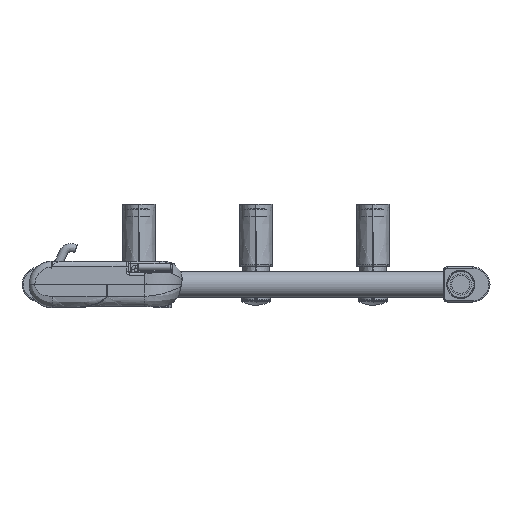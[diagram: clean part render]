
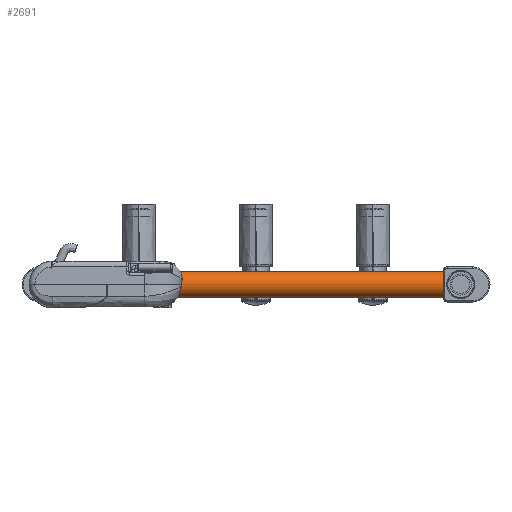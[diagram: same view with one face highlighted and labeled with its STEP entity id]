
A CAD part, front view. The second image highlights one B-rep face of the part: STEP entity #2691.
In plain terms, the highlighted cylindrical face has radius 11 mm (diameter 22 mm), a partial arc.
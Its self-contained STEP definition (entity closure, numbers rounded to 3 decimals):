
#319=CARTESIAN_POINT('',(160.,-594.,0.));
#320=DIRECTION('',(1.,0.,0.));
#321=DIRECTION('',(0.,0.,1.));
#322=AXIS2_PLACEMENT_3D('',#319,#320,#321);
#824=DIRECTION('',(1.,0.,0.));
#825=VECTOR('',#824,320.);
#826=CARTESIAN_POINT('',(-160.,-594.,-11.));
#827=LINE('',#826,#825);
#831=DIRECTION('',(1.,0.,0.));
#832=VECTOR('',#831,320.);
#833=CARTESIAN_POINT('',(-160.,-594.,11.));
#834=LINE('',#833,#832);
#874=CARTESIAN_POINT('',(-160.,-594.,0.));
#875=DIRECTION('',(1.,0.,0.));
#876=DIRECTION('',(0.,0.,1.));
#877=AXIS2_PLACEMENT_3D('',#874,#875,#876);
#1960=CARTESIAN_POINT('',(-160.,-594.,-11.));
#1961=CARTESIAN_POINT('',(160.,-594.,-11.));
#1962=VERTEX_POINT('',#1960);
#1963=VERTEX_POINT('',#1961);
#1964=CARTESIAN_POINT('',(-160.,-594.,11.));
#1965=CARTESIAN_POINT('',(160.,-594.,11.));
#1966=VERTEX_POINT('',#1964);
#1967=VERTEX_POINT('',#1965);
#2679=CARTESIAN_POINT('',(-240.,-594.,0.));
#2680=DIRECTION('',(1.,0.,0.));
#2681=DIRECTION('',(0.,0.,-1.));
#2682=AXIS2_PLACEMENT_3D('',#2679,#2680,#2681);
#2683=CYLINDRICAL_SURFACE('',#2682,11.);
#2684=ORIENTED_EDGE('',*,*,#2669,.F.);
#2686=ORIENTED_EDGE('',*,*,#2685,.F.);
#2687=ORIENTED_EDGE('',*,*,#2672,.T.);
#2688=ORIENTED_EDGE('',*,*,#2352,.T.);
#2689=EDGE_LOOP('',(#2684,#2686,#2687,#2688));
#2690=FACE_OUTER_BOUND('',#2689,.F.);
#323=CIRCLE('',#322,11.);
#878=CIRCLE('',#877,11.);
#2352=EDGE_CURVE('',#1967,#1963,#323,.T.);
#2669=EDGE_CURVE('',#1962,#1963,#827,.T.);
#2672=EDGE_CURVE('',#1966,#1967,#834,.T.);
#2685=EDGE_CURVE('',#1966,#1962,#878,.T.);
#2691=ADVANCED_FACE('',(#2690),#2683,.T.);
